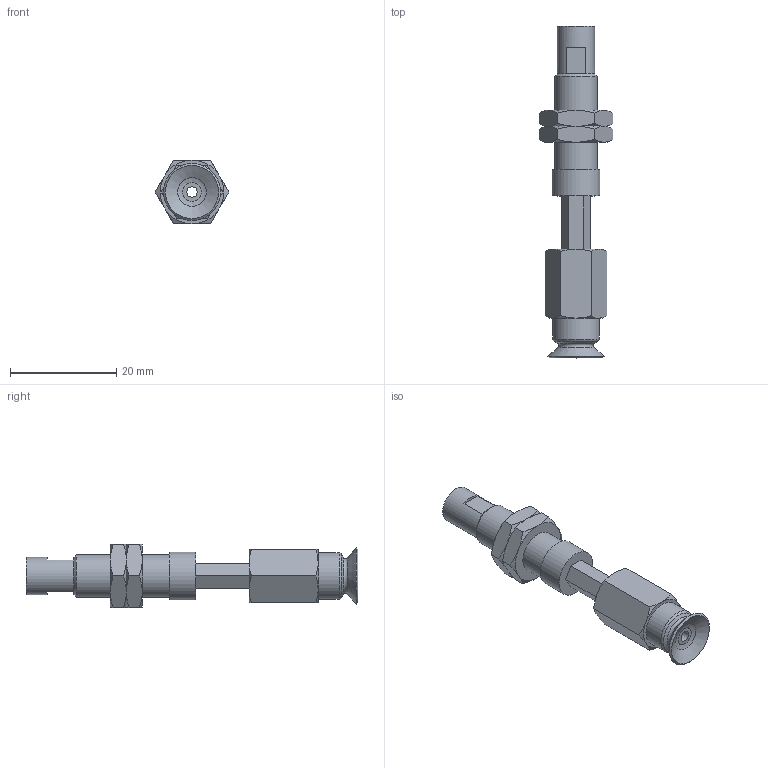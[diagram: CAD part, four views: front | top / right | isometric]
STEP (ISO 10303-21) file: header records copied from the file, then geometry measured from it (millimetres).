
FILE_DESCRIPTION(('STEP AP203'),'1');
FILE_NAME('.stp','2025-08-27T03:08:50',(' '),(' '),'Spatial InterOp 3D',' ',' ');
FILE_SCHEMA(('CONFIG_CONTROL_DESIGN'));
Length unit declared in the file: millimetre
Products named in the file (6): BNABPFTH-10A-10-※; ADAPTER; NAPATH-10A-10--M; Nut-10A-10-h; NAPFTH-10A-10-FBODY; BPFG-10A-※
Assembly tree (6 placements, depth 2):
  BNABPFTH-10A-10-※
    ADAPTER
    NAPATH-10A-10--M
    Nut-10A-10-h  x2
    NAPFTH-10A-10-FBODY
    BPFG-10A-※
Bounding box: 13.86 x 62.5 x 12 mm (x, y, z)
Volume: 3492.5 mm3; surface area: 4115.2 mm2
Topology: 6 solids, 6 shells, 123 faces, 264 edges, 161 vertices
Faces by surface type: plane 54, cone 46, cylinder 14, torus 8, bspline 1
Full cylindrical faces by diameter (mm): 2 x3, 4 x2, 4.134 x1, 6 x2, 7 x1, 7.188 x2, 8 x1, 8.7 x1, 9 x1
Entity records: 3003 total; most frequent: CARTESIAN_POINT 724, DIRECTION 412, ORIENTED_EDGE 354, AXIS2_PLACEMENT_3D 177, EDGE_CURVE 177, EDGE_LOOP 148, VERTEX_POINT 125, FACE_OUTER_BOUND 122
